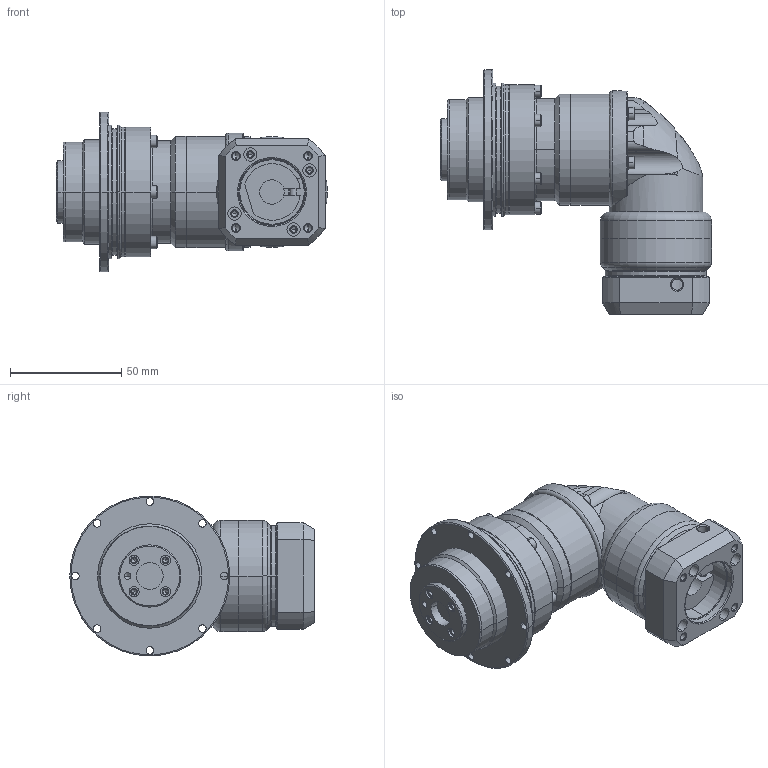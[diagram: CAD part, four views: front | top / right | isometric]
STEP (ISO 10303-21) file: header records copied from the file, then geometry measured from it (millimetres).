
FILE_DESCRIPTION((''),'2;1');
FILE_NAME('ADR0472-P0403100302_ASM','2008-08-28T',('d00080'),(''),'PRO/ENGINEER BY PARAMETRIC TECHNOLOGY CORPORATION, 2006170','PRO/ENGINEER BY PARAMETRIC TECHNOLOGY CORPORATION, 2006170','');
FILE_SCHEMA(('CONFIG_CONTROL_DESIGN'));
Length unit declared in the file: millimetre
Products named in the file (11): AD047-2; PH210001; 220120417; AH_RING_GEAR-SET2-1_ASM; P100200001; 222000001; 220100406; HOUSING-SET-1_ASM; P1305100001; P0403100302; ADR0472-P0403100302_ASM
Assembly tree (21 placements, depth 3):
  ADR0472-P0403100302_ASM
    AD047-2
    AH_RING_GEAR-SET2-1_ASM
      PH210001
      220120417  x6
    HOUSING-SET-1_ASM
      P100200001
      222000001  x4
      220100406  x4
    P1305100001
    P0403100302
Bounding box: 122 x 110 x 72 mm (x, y, z)
Volume: 286693.5 mm3; surface area: 67184 mm2
Topology: 20 solids, 47 shells, 864 faces, 1952 edges, 1170 vertices
Faces by surface type: cylinder 368, plane 256, cone 162, torus 61, bspline 17
Entity records: 18128 total; most frequent: CARTESIAN_POINT 4053, DIRECTION 3219, ORIENTED_EDGE 2556, AXIS2_PLACEMENT_3D 1357, EDGE_CURVE 1332, VERTEX_POINT 842, EDGE_LOOP 726, CIRCLE 726
